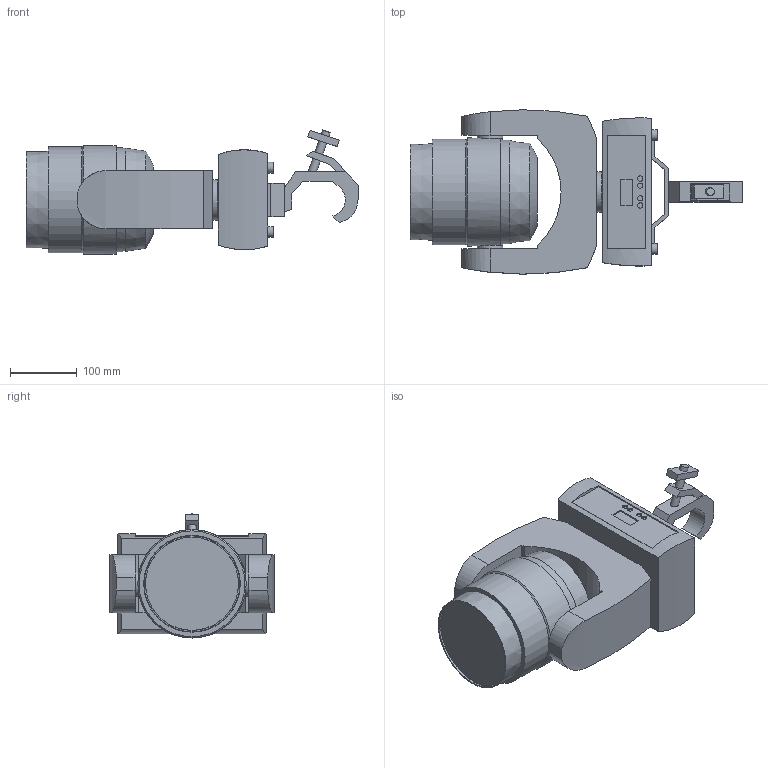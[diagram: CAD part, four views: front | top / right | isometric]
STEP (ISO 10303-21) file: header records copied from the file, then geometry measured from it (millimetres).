
FILE_DESCRIPTION(/* description */ ('Unknown'),/* implementation_level */ '2;1');
FILE_NAME(/* name */ '3D_Robin LEDBeam 150',/* time_stamp */ '2018-06-22T14:46:59+02:00',/* author */ ('Unknown'),/* organization */ ('Unknown'),/* preprocessor_version */ 'ST-DEVELOPER v16.7',/* originating_system */ 'DEX',/* authorisation */ $);
FILE_SCHEMA (('AUTOMOTIVE_DESIGN {1 0 10303 214 3 1 1}'));
Length unit declared in the file: millimetre
Products named in the file (7): 3D_Robin LEDBeam 150; ZákladnaB100; RamenoLB150; Omega_SlimClamp_90; Omega+SlimClamp; Clamp Doughty Slimline QT; HlavaLB150
Assembly tree (6 placements, depth 3):
  3D_Robin LEDBeam 150
    ZákladnaB100
    RamenoLB150
    Omega_SlimClamp_90
      Omega+SlimClamp
      Clamp Doughty Slimline QT
    HlavaLB150
Bounding box: 495.75 x 245.41 x 185.24 mm (x, y, z)
Volume: 8237916.3 mm3; surface area: 449858 mm2
Topology: 5 solids, 5 shells, 136 faces, 308 edges, 207 vertices
Faces by surface type: plane 88, cylinder 42, cone 6
Full cylindrical faces by diameter (mm): 7.832 x4, 11 x4, 12 x4, 13 x2, 16.099 x4, 37.832 x1, 60.493 x1, 60.515 x1, 158 x1, 162 x1
Entity records: 3885 total; most frequent: CARTESIAN_POINT 765, DIRECTION 616, ORIENTED_EDGE 534, EDGE_CURVE 267, AXIS2_PLACEMENT_3D 220, EDGE_LOOP 202, FACE_BOUND 202, VERTEX_POINT 195
